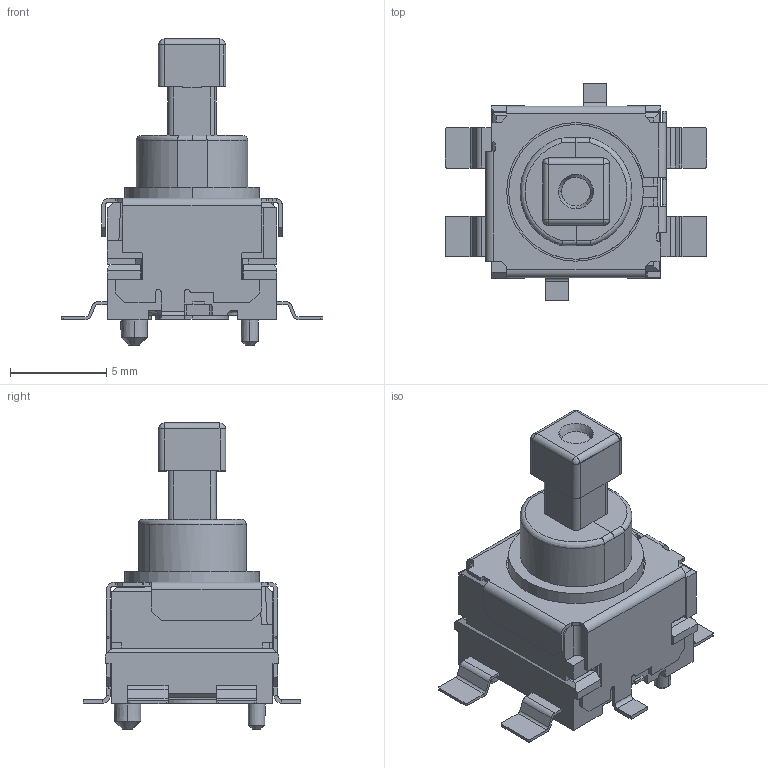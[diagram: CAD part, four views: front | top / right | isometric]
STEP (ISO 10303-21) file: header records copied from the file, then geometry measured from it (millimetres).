
FILE_DESCRIPTION (( 'STEP AP214' ), '1' );
FILE_NAME ('SPEF220100.STEP', '2009-10-30T07:49:01', ( ' ' ), ( ' ' ), 'SwSTEP 2.0', 'SolidWorks 2007', '' );
FILE_SCHEMA (( 'AUTOMOTIVE_DESIGN' ));
Length unit declared in the file: millimetre
Products named in the file (1): SPEF220100
Bounding box: 13.6 x 11.3 x 15.9 mm (x, y, z)
Volume: 599.1 mm3; surface area: 852.7 mm2
Topology: 1 solids, 1 shells, 664 faces, 1847 edges, 1204 vertices
Faces by surface type: plane 355, cone 188, cylinder 111, bspline 10
Entity records: 29246 total; most frequent: CARTESIAN_POINT 4742, ORIENTED_EDGE 3686, DIRECTION 3560, EDGE_CURVE 1843, VERTEX_POINT 1204, AXIS2_PLACEMENT_3D 1197, VECTOR 1166, LINE 1166
